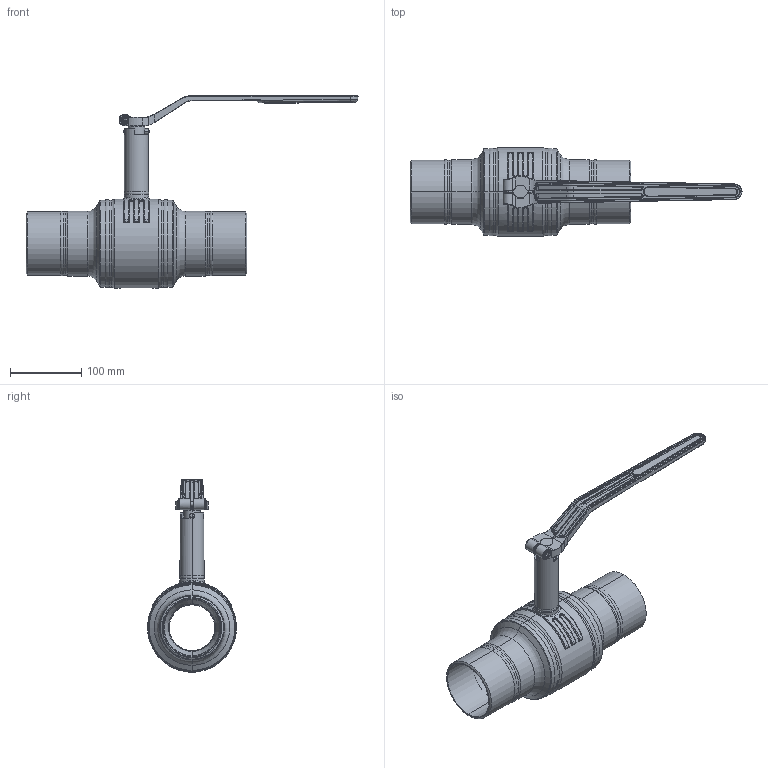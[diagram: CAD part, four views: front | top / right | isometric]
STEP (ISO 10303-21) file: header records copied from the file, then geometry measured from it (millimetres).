
FILE_DESCRIPTION((''),'2;1');
FILE_NAME('KHMO-S-R-H-080R065P04_SW0001','2022-10-18T15:45:31',('jeitlers'),('KLINGER'),'CREO PARAMETRIC BY PTC INC, 2020184','CREO PARAMETRIC BY PTC INC, 2020184','');
FILE_SCHEMA(('AUTOMOTIVE_DESIGN { 1 0 10303 214 1 1 1 1 }'));
Length unit declared in the file: millimetre
Products named in the file (1): KHMO-S-R-H-080R065P04_SW0001
Bounding box: 465.8 x 125 x 269.8 mm (x, y, z)
Volume: 1223714.4 mm3; surface area: 336744.4 mm2
Topology: 3 solids, 3 shells, 982 faces, 2276 edges, 1306 vertices
Faces by surface type: cylinder 304, bspline 208, torus 202, plane 153, cone 98, extrusion 8, sphere 8, revolution 1
Entity records: 56657 total; most frequent: CARTESIAN_POINT 34277, ORIENTED_EDGE 4534, DIRECTION 4325, EDGE_CURVE 2267, AXIS2_PLACEMENT_3D 1831, VERTEX_POINT 1306, CIRCLE 1052, EDGE_LOOP 1021
